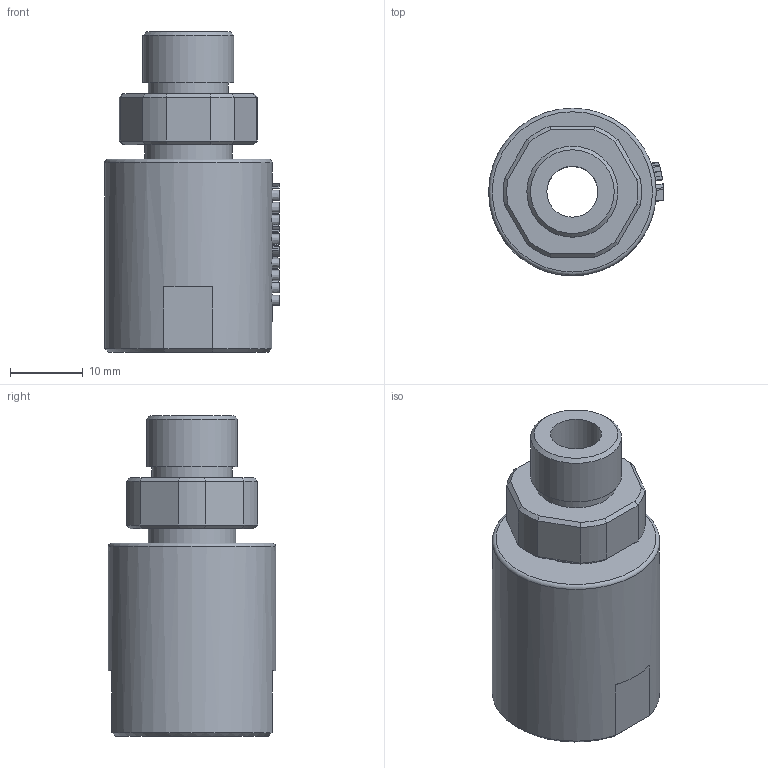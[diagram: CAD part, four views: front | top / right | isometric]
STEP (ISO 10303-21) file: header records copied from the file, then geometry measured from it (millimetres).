
FILE_DESCRIPTION(/* description */ (''),/* implementation_level */ '2;1');
FILE_NAME(/* name */ 'HY0102.stp',/* time_stamp */ '2024-07-03T14:45:16+08:00',/* author */ (''),/* organization */ (''),/* preprocessor_version */ 'ST-DEVELOPER v16.7',/* originating_system */ 'SIEMENS PLM Software NX 12.0',/* authorisation */ '');
FILE_SCHEMA (('AUTOMOTIVE_DESIGN { 1 0 10303 214 3 1 1 1 }'));
Length unit declared in the file: millimetre
Products named in the file (1): 8613389012830v5o
Bounding box: 24 x 23 x 44 mm (x, y, z)
Volume: 11850.6 mm3; surface area: 5042.7 mm2
Topology: 1 solids, 1 shells, 369 faces, 941 edges, 617 vertices
Faces by surface type: extrusion 154, plane 148, bspline 27, cylinder 23, cone 16, torus 1
Full cylindrical faces by diameter (mm): 7 x1, 11 x1, 11.6 x1, 12 x1, 12.5 x1, 23 x1
Entity records: 16430 total; most frequent: CARTESIAN_POINT 8310, ORIENTED_EDGE 1844, DIRECTION 1162, EDGE_CURVE 922, VERTEX_POINT 616, VECTOR 562, B_SPLINE_CURVE_WITH_KNOTS 557, EDGE_LOOP 432
